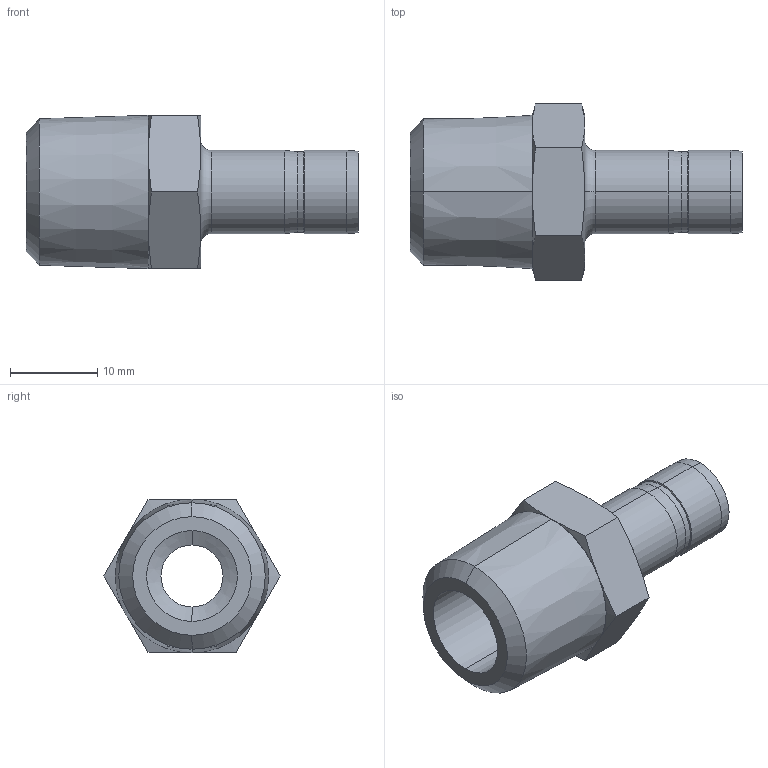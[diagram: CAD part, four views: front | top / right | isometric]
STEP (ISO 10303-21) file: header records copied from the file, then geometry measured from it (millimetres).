
FILE_DESCRIPTION (( 'STEP AP203' ), '1' );
FILE_NAME ('DHA06-06 SS.STEP', '2009-09-08T06:14:50', ( ' ' ), ( '' ), 'SwSTEP 2.0', 'SolidWorks 2008', '' );
FILE_SCHEMA (( 'CONFIG_CONTROL_DESIGN' ));
Length unit declared in the file: millimetre
Products named in the file (1): DHA06-06 SS
Bounding box: 38 x 20.16 x 17.55 mm (x, y, z)
Volume: 3847.9 mm3; surface area: 2993.8 mm2
Topology: 1 solids, 1 shells, 46 faces, 96 edges, 54 vertices
Faces by surface type: cone 24, cylinder 10, plane 10, torus 2
Entity records: 1349 total; most frequent: CARTESIAN_POINT 309, DIRECTION 210, ORIENTED_EDGE 192, EDGE_CURVE 96, AXIS2_PLACEMENT_3D 91, VERTEX_POINT 54, EDGE_LOOP 50, ADVANCED_FACE 46
